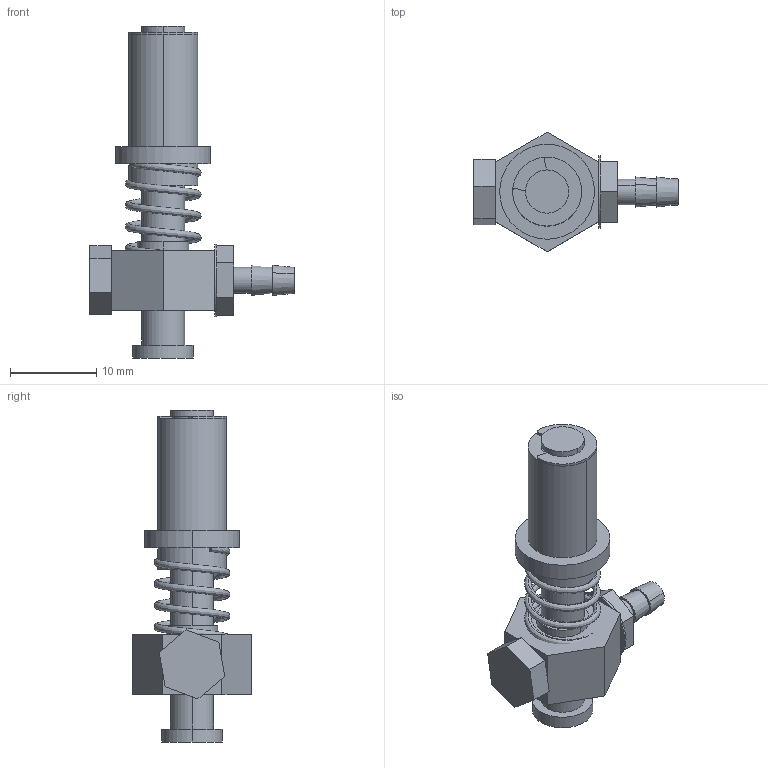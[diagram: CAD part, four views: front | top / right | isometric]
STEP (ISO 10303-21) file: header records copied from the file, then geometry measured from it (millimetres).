
FILE_DESCRIPTION (( 'STEP AP214' ), '1' );
FILE_NAME ('VFS-0508.STEP', '2019-11-16T00:40:25', ( '微软用户' ), ( '微软中国' ), 'SwSTEP 2.0', 'SolidWorks 2016', '' );
FILE_SCHEMA (( 'AUTOMOTIVE_DESIGN' ));
Length unit declared in the file: millimetre
Products named in the file (1): VFS-0508
Bounding box: 23.7 x 13.86 x 38.5 mm (x, y, z)
Volume: 2285.7 mm3; surface area: 3196.2 mm2
Topology: 8 solids, 8 shells, 131 faces, 305 edges, 202 vertices
Faces by surface type: cylinder 66, plane 54, bspline 7, cone 4
Entity records: 8020 total; most frequent: CARTESIAN_POINT 3574, ORIENTED_EDGE 610, DIRECTION 579, EDGE_CURVE 305, AXIS2_PLACEMENT_3D 217, VERTEX_POINT 202, EDGE_LOOP 153, LINE 145
